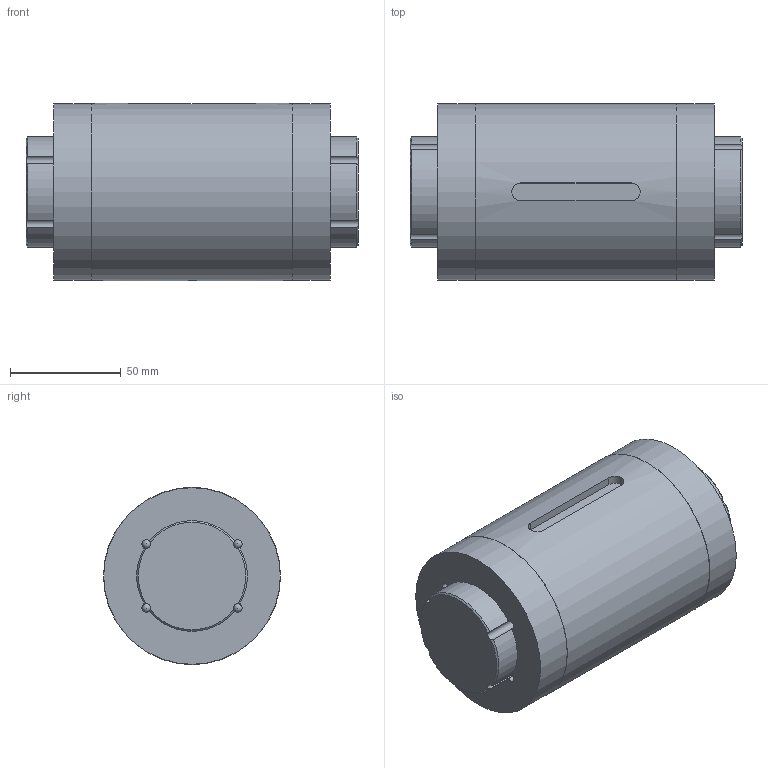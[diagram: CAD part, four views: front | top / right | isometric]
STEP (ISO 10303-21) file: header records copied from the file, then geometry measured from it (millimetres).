
FILE_DESCRIPTION(/* description */ ('Unknown'),/* implementation_level */ '2;1');
FILE_NAME(/* name */ 'TLT050-D-L150',/* time_stamp */ '2024-12-23T10:17:16+08:00',/* author */ ('Unknown'),/* organization */ ('Unknown'),/* preprocessor_version */ 'ST-DEVELOPER v18.102',/* originating_system */ 'Solid Edge',/* authorisation */ 'Unknown');
FILE_SCHEMA (('AUTOMOTIVE_DESIGN {1 0 10303 214 3 1 1}'));
Length unit declared in the file: millimetre
Products named in the file (3): TLT050-D-L150; TLT050-D-xxxx; TLT050
Assembly tree (2 placements, depth 2):
  TLT050-D-L150
    TLT050-D-xxxx
    TLT050
Bounding box: 150 x 80 x 80 mm (x, y, z)
Volume: 668607.3 mm3; surface area: 88476.9 mm2
Topology: 2 solids, 2 shells, 59 faces, 271 edges, 178 vertices
Faces by surface type: cylinder 22, sphere 20, plane 9, cone 8
Full cylindrical faces by diameter (mm): 4 x1, 79.8 x2, 80 x1
Entity records: 3065 total; most frequent: CARTESIAN_POINT 1050, ORIENTED_EDGE 456, DIRECTION 316, EDGE_CURVE 228, VERTEX_POINT 160, AXIS2_PLACEMENT_3D 126, EDGE_LOOP 122, FACE_BOUND 122
